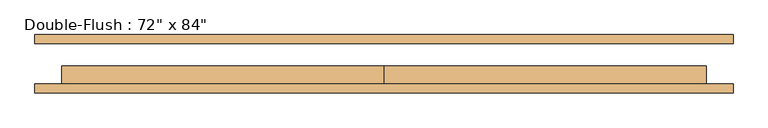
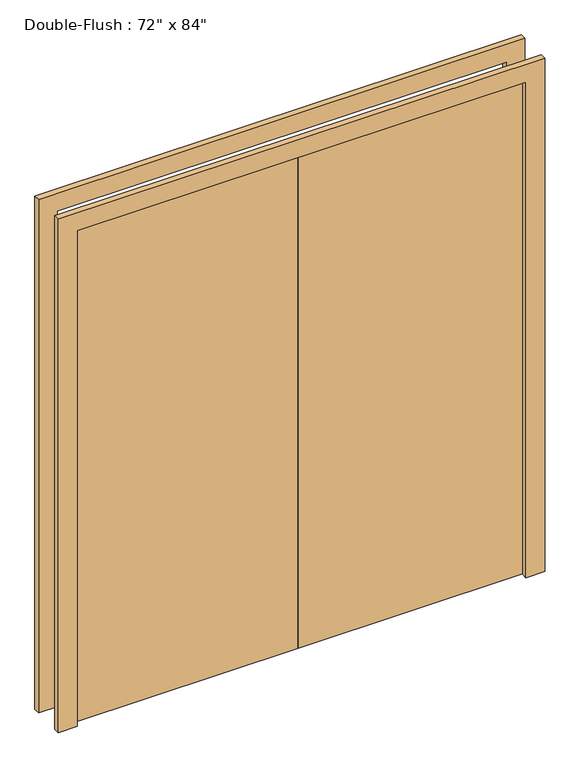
"""IFC4 building model written with IfcOpenShell, lengths in millimetres: door geometry."""

from ifc_helpers import new_model, si_unit, frame, origin, origin_with_axes, place, context, project, spatial, polyline, outline, extrude, source, transform, mapped, element, save


def door_5c6be3c9(model_context):
    return source(origin(), model_context, "Body", "SweptSolid", [
        extrude(outline(polyline([(0.0, -57.15), (0.0, -6.35), (914.4, -6.35), (914.4, -57.15), (0.0, -57.15)])), origin_with_axes(), (0.0, 0.0, 1.0), 2133.6),
        extrude(outline(polyline([(-914.4, -57.15), (-914.4, -6.35), (0.0, -6.35), (0.0, -57.15), (-914.4, -57.15)])), origin_with_axes(), (0.0, 0.0, 1.0), 2133.6),
        extrude(outline(polyline([(2133.6, -914.4), (2133.6, 914.4), (0.0, 914.4), (0.0, 990.6), (2209.8, 990.6), (2209.8, -990.6), (0.0, -990.6), (0.0, -914.4), (2133.6, -914.4)])), frame((0.0, 57.15, 0.0), z_axis=(0.0, 1.0, 0.0), x_axis=(0.0, 0.0, 1.0)), (0.0, 0.0, 1.0), 25.4),
        extrude(outline(polyline([(2133.6, -914.4), (2133.6, 914.4), (0.0, 914.4), (0.0, 990.6), (2209.8, 990.6), (2209.8, -990.6), (0.0, -990.6), (0.0, -914.4), (2133.6, -914.4)])), frame((0.0, -82.55, 0.0), z_axis=(0.0, 1.0, 0.0), x_axis=(0.0, 0.0, 1.0)), (0.0, 0.0, 1.0), 25.4),
    ])


if __name__ == "__main__":
    model = new_model("IFC4")
    model_context = context("Model", 3, world=origin())
    ifc_project = project(units=[si_unit("LENGTHUNIT", "METRE", prefix="MILLI")], contexts=[model_context])
    site = spatial("IfcSite", under=ifc_project)
    building = spatial("IfcBuilding", under=site)
    placement = place(None, origin())
    door_shape = door_5c6be3c9(model_context)
    element("IfcDoor", 1, ObjectType="Double-Flush : 72\" x 84\"", at=placement, inside=building, context=model_context, shape_type="MappedRepresentation", body=[
        mapped(door_shape, transform((0.0, 0.0, 0.0), x_axis=(1.0, 0.0, 0.0), y_axis=(0.0, 1.0, 0.0), z_axis=(0.0, 0.0, 1.0))),
    ])
    save(model, "model.ifc")
